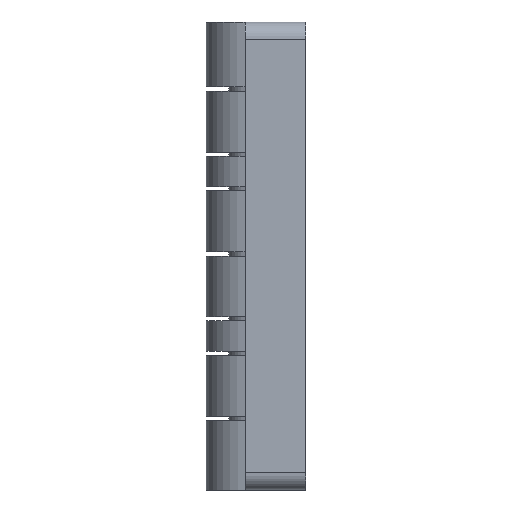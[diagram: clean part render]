
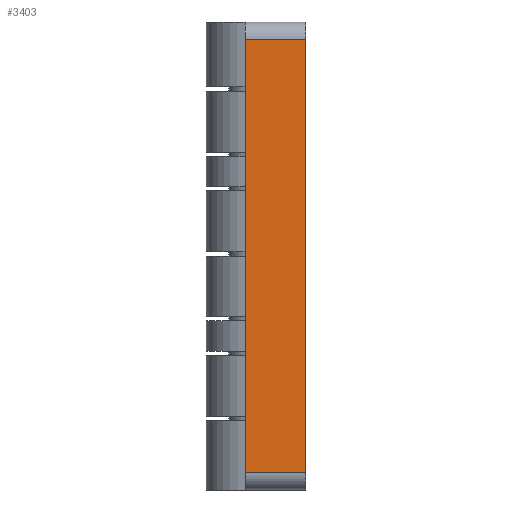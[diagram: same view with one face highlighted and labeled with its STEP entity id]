
A CAD part, left-side view. The second image highlights one B-rep face of the part: STEP entity #3403.
In plain terms, the highlighted planar face has unit normal (-1, 0, 0).
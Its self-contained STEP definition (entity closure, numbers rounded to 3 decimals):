
#24 = VECTOR ( 'NONE', #1705, 1000. ) ;
#41 = VERTEX_POINT ( 'NONE', #133 ) ;
#133 = CARTESIAN_POINT ( 'NONE',  ( -20., 7., 25. ) ) ;
#171 = ORIENTED_EDGE ( 'NONE', *, *, #1511, .F. ) ;
#208 = DIRECTION ( 'NONE',  ( 1., 0., 0. ) ) ;
#265 = VECTOR ( 'NONE', #1089, 1000. ) ;
#466 = VERTEX_POINT ( 'NONE', #859 ) ;
#529 = LINE ( 'NONE', #3202, #24 ) ;
#859 = CARTESIAN_POINT ( 'NONE',  ( -20., 0., -25. ) ) ;
#889 = VECTOR ( 'NONE', #2496, 1000. ) ;
#900 = VERTEX_POINT ( 'NONE', #3718 ) ;
#963 = CARTESIAN_POINT ( 'NONE',  ( -20., 7., -25. ) ) ;
#1089 = DIRECTION ( 'NONE',  ( 0., 1., 0. ) ) ;
#1293 = VERTEX_POINT ( 'NONE', #963 ) ;
#1323 = FACE_OUTER_BOUND ( 'NONE', #3593, .T. ) ;
#1344 = PLANE ( 'NONE',  #3169 ) ;
#1503 = LINE ( 'NONE', #2670, #2165 ) ;
#1511 = EDGE_CURVE ( 'NONE', #900, #466, #2230, .T. ) ;
#1675 = EDGE_CURVE ( 'NONE', #900, #41, #2545, .T. ) ;
#1699 = EDGE_CURVE ( 'NONE', #1293, #466, #1503, .T. ) ;
#1705 = DIRECTION ( 'NONE',  ( 0., 0., -1. ) ) ;
#2165 = VECTOR ( 'NONE', #3499, 1000. ) ;
#2230 = LINE ( 'NONE', #2459, #889 ) ;
#2331 = ORIENTED_EDGE ( 'NONE', *, *, #3569, .T. ) ;
#2346 = ORIENTED_EDGE ( 'NONE', *, *, #1675, .T. ) ;
#2459 = CARTESIAN_POINT ( 'NONE',  ( -20., 0., 27. ) ) ;
#2496 = DIRECTION ( 'NONE',  ( 0., 0., -1. ) ) ;
#2545 = LINE ( 'NONE', #3688, #265 ) ;
#2670 = CARTESIAN_POINT ( 'NONE',  ( -20., 0., -25. ) ) ;
#2791 = CARTESIAN_POINT ( 'NONE',  ( -20., 0., 27. ) ) ;
#3036 = ORIENTED_EDGE ( 'NONE', *, *, #1699, .T. ) ;
#3169 = AXIS2_PLACEMENT_3D ( 'NONE', #2791, #208, #3377 ) ;
#3202 = CARTESIAN_POINT ( 'NONE',  ( -20., 7., 27. ) ) ;
#3377 = DIRECTION ( 'NONE',  ( 0., 1., 0. ) ) ;
#3403 = ADVANCED_FACE ( 'NONE', ( #1323 ), #1344, .F. ) ;
#3499 = DIRECTION ( 'NONE',  ( 0., -1., 0. ) ) ;
#3569 = EDGE_CURVE ( 'NONE', #41, #1293, #529, .T. ) ;
#3593 = EDGE_LOOP ( 'NONE', ( #2331, #3036, #171, #2346 ) ) ;
#3688 = CARTESIAN_POINT ( 'NONE',  ( -20., 7., 25. ) ) ;
#3718 = CARTESIAN_POINT ( 'NONE',  ( -20., 0., 25. ) ) ;
